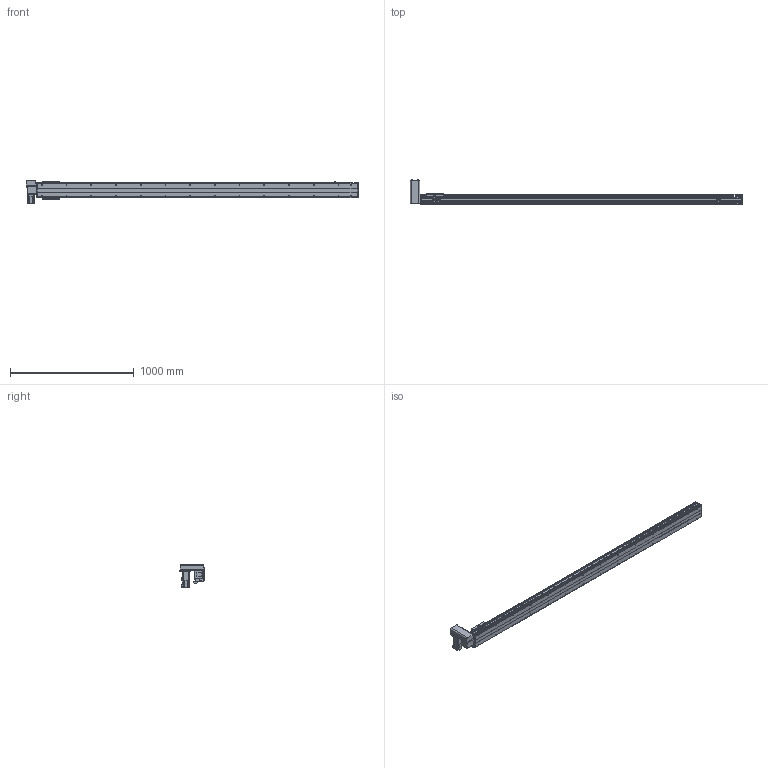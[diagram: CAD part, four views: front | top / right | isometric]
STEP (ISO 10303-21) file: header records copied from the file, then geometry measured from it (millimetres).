
FILE_DESCRIPTION( ( 'STEP AP214' ), '1' );
FILE_NAME( 'x:/temp/worker_27/temp/exporttempdir_6708_250_nnCqe/format_0/PBS120-P40-S2300-RU-T40-C1-N(0).stp', '2022-06-06T00:51:19', ( 'License CC BY-ND 4.0' ), ( 'CADENAS' ), ' ', 'PARTsolutions', ' ' );
FILE_SCHEMA( ( 'AUTOMOTIVE_DESIGN { 1 0 10303 214 1 1 1 1 }' ) );
Length unit declared in the file: millimetre
Products named in the file (7): PBS120-P40-S2300-RU-T40-C1-N(0); _PBS120-S2300()_body; _PBS120T-RU_motors; _T40-p1; _PBS120_sliser; _PBS120_plant; _PBS120_sensor
Assembly tree (8 placements, depth 2):
  PBS120-P40-S2300-RU-T40-C1-N(0)
    _PBS120-S2300()_body
    _PBS120T-RU_motors
    _T40-p1
    _PBS120_sliser
    _PBS120_plant
    _PBS120_sensor  x3
Bounding box: 2686 x 198 x 189.7 mm (x, y, z)
Volume: 10192627.5 mm3; surface area: 2097433 mm2
Topology: 8 solids, 8 shells, 864 faces, 2216 edges, 1423 vertices
Faces by surface type: plane 561, cylinder 241, cone 60, torus 2
Full cylindrical faces by diameter (mm): 2.459 x6, 3.242 x4, 4 x2, 4.134 x4, 4.5 x10, 4.917 x32, 5.5 x11, 6 x2, 6.6 x1, 7 x2, 8.5 x4, 9 x4, 12 x1, 14 x1, 30 x2, 40 x1, 50 x2
Entity records: 28332 total; most frequent: DIRECTION 3884, CARTESIAN_POINT 3785, ORIENTED_EDGE 3574, EDGE_CURVE 1787, AXIS2_PLACEMENT_3D 1328, VERTEX_POINT 1229, LINE 1228, VECTOR 1228
